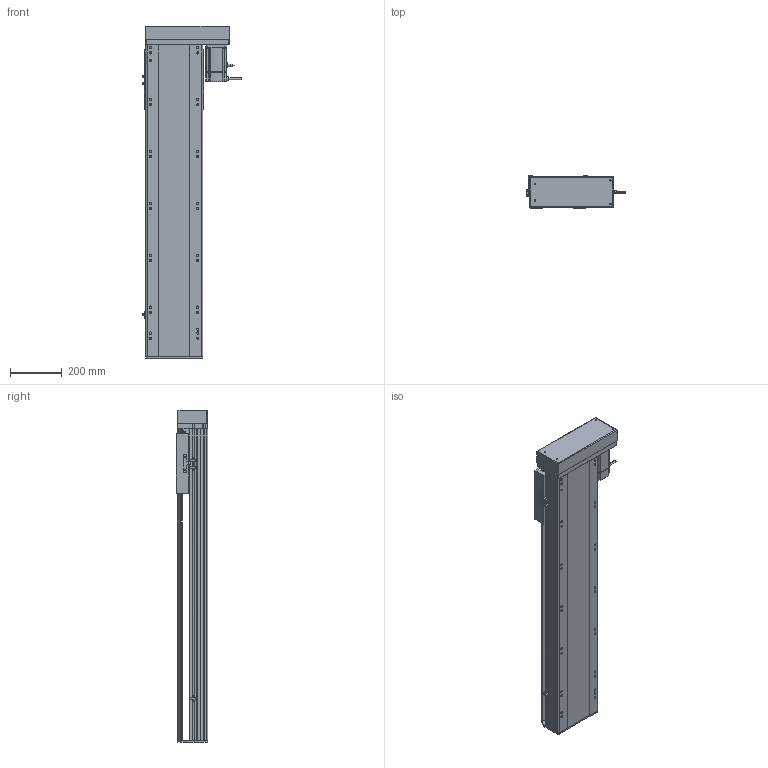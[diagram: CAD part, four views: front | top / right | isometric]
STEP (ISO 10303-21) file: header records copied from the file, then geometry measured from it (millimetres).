
FILE_DESCRIPTION (( 'STEP AP214' ), '1' );
FILE_NAME ('RTH22-XX-900-L-M75-C4.STEP', '2025-10-24T10:59:45', ( 'Microsoft' ), ( 'Microsoft' ), 'SwSTEP 2.0', 'SolidWorks 2018', '' );
FILE_SCHEMA (( 'AUTOMOTIVE_DESIGN' ));
Length unit declared in the file: millimetre
Products named in the file (10): N_RTH22-L-011菁釱^RTH22-XX-XX-L-M75-C4; N_RTH22-GY-001耜裔^RTH22-XX-XX-L-M75-C4; N_750W萇儂^RTH22-XX-XX-L-M75-C4; N_OMRON EE-SX672 传感器^RTH22-XX-XX-L-M75-C4; N_RTH22-GY-013外置感应片^RTH22-XX-XX-L-M75-C4; N_RTH22-L-008-P75萇儂啣^RTH22-XX-XX-L-M75-C4; RTH22-XX-900-L-M75-C4; N_RTH22-L-004-SFS25賑釱^RTH22-XX-XX-L-M75-C4; N_RTH22-L-018裔赽^RTH22-XX-XX-L-M75-C4; N_RTH22-L-007奻裔^RTH22-XX-XX-L-M75-C4
Assembly tree (11 placements, depth 2):
  RTH22-XX-900-L-M75-C4
    N_RTH22-L-011菁釱^RTH22-XX-XX-L-M75-C4
    N_RTH22-GY-001耜裔^RTH22-XX-XX-L-M75-C4
    N_750W萇儂^RTH22-XX-XX-L-M75-C4
    N_RTH22-L-008-P75萇儂啣^RTH22-XX-XX-L-M75-C4
    N_RTH22-L-007奻裔^RTH22-XX-XX-L-M75-C4
    N_RTH22-L-018裔赽^RTH22-XX-XX-L-M75-C4
    N_OMRON EE-SX672 传感器^RTH22-XX-XX-L-M75-C4  x3
    N_RTH22-GY-013外置感应片^RTH22-XX-XX-L-M75-C4
    N_RTH22-L-004-SFS25賑釱^RTH22-XX-XX-L-M75-C4
Bounding box: 384.7 x 122 x 1279.7 mm (x, y, z)
Volume: 17729503.4 mm3; surface area: 1999281.1 mm2
Topology: 11 solids, 11 shells, 1606 faces, 4379 edges, 2821 vertices
Faces by surface type: plane 795, cylinder 470, bspline 279, cone 62
Entity records: 40335 total; most frequent: CARTESIAN_POINT 12262, ORIENTED_EDGE 5726, DIRECTION 5413, EDGE_CURVE 2863, VERTEX_POINT 1857, AXIS2_PLACEMENT_3D 1824, LINE 1765, VECTOR 1765
